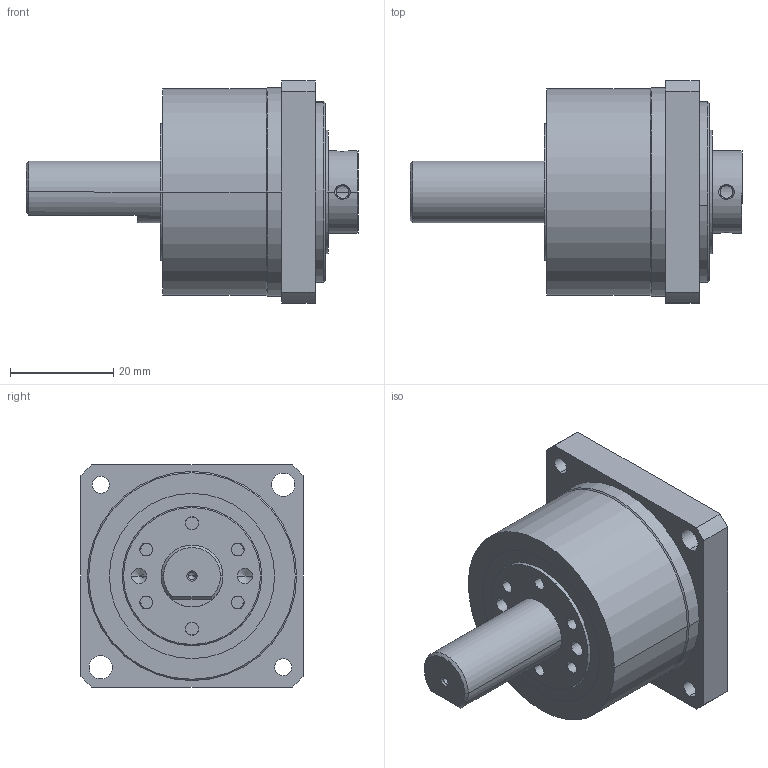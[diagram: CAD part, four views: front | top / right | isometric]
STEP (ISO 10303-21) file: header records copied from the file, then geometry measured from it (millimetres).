
FILE_DESCRIPTION (( 'STEP AP214' ), '1' );
FILE_NAME ('CSF-11-xxx-2XH-J.STEP', '2022-04-02T03:16:32', ( 'PC' ), ( 'Microsoft' ), 'SwSTEP 2.0', 'SolidWorks 2016', '' );
FILE_SCHEMA (( 'AUTOMOTIVE_DESIGN' ));
Length unit declared in the file: millimetre
Products named in the file (15): 柔性轴承27.262X20.73X4.8X4.6_預設; CSF-11-04-2XH-F_蕼偞; 内六角圆螺钉M2.5×6_預設; CSF-11-05-2XH-F_蕼偞; CSF-11-03-2XH-F_蕼偞; CSF-11-02-2XH-F_蕼偞; CSF-11-01-2XH-F_蕼偞; CSF-11-xxx-2XH-J; CSF-11蝠脫粣創_蕼偞; 外径27x1.0  O型圈_預設; M1.6-蹟隊_蕼偞; CSF-11-蝠脫粣創黑芛_1; CSF-11-交叉轴承内圈_1; CSF-11-交叉轴承外圈_1; CSF-11-2XH-F-疏楷汜ん_蕼偞
Assembly tree (19 placements, depth 3):
  CSF-11-xxx-2XH-J
    CSF-11-01-2XH-F_蕼偞
    CSF-11-02-2XH-F_蕼偞
    CSF-11-03-2XH-F_蕼偞
    CSF-11-05-2XH-F_蕼偞
    内六角圆螺钉M2.5×6_預設  x6
    CSF-11-2XH-F-疏楷汜ん_蕼偞
      CSF-11-04-2XH-F_蕼偞
      柔性轴承27.262X20.73X4.8X4.6_預設
    CSF-11蝠脫粣創_蕼偞
      CSF-11-交叉轴承外圈_1
      CSF-11-交叉轴承内圈_1
      CSF-11-蝠脫粣創黑芛_1
      M1.6-蹟隊_蕼偞
      外径27x1.0  O型圈_預設
Bounding box: 64.3 x 43 x 43 mm (x, y, z)
Volume: 35458.5 mm3; surface area: 27970.9 mm2
Topology: 17 solids, 24 shells, 531 faces, 1212 edges, 730 vertices
Faces by surface type: cylinder 216, plane 138, cone 109, bspline 44, torus 24
Entity records: 18611 total; most frequent: CARTESIAN_POINT 3481, DIRECTION 2279, ORIENTED_EDGE 1940, EDGE_CURVE 970, AXIS2_PLACEMENT_3D 958, VERTEX_POINT 600, CIRCLE 547, EDGE_LOOP 538
